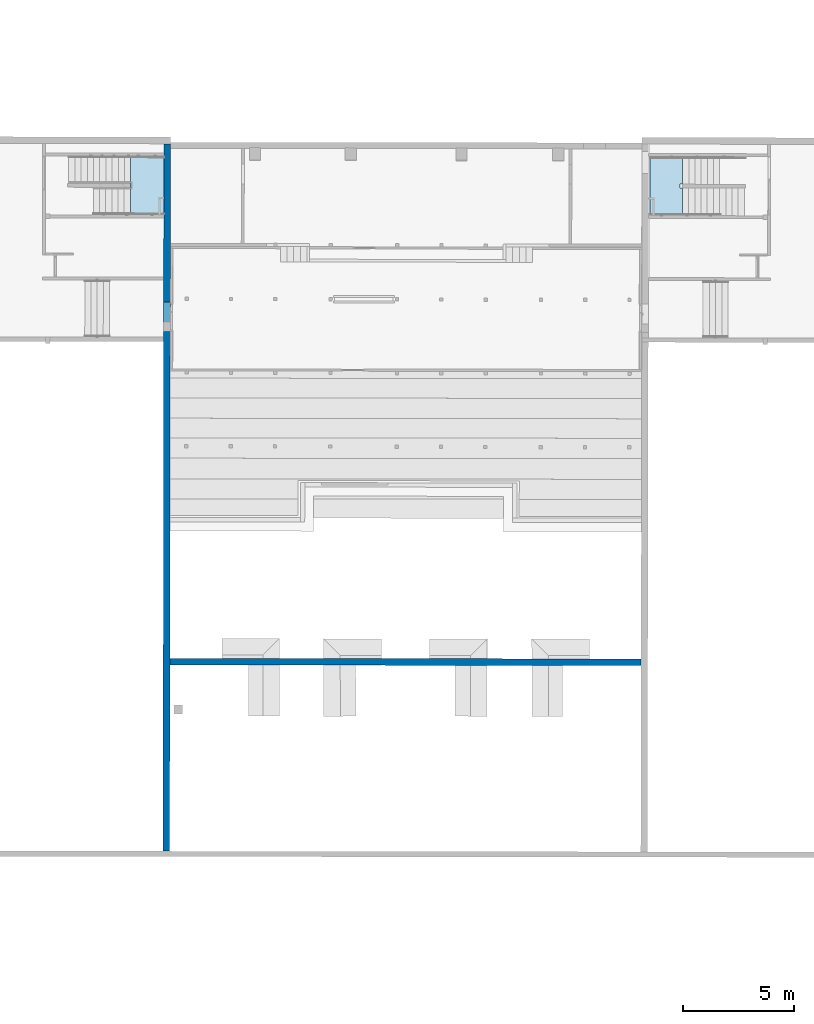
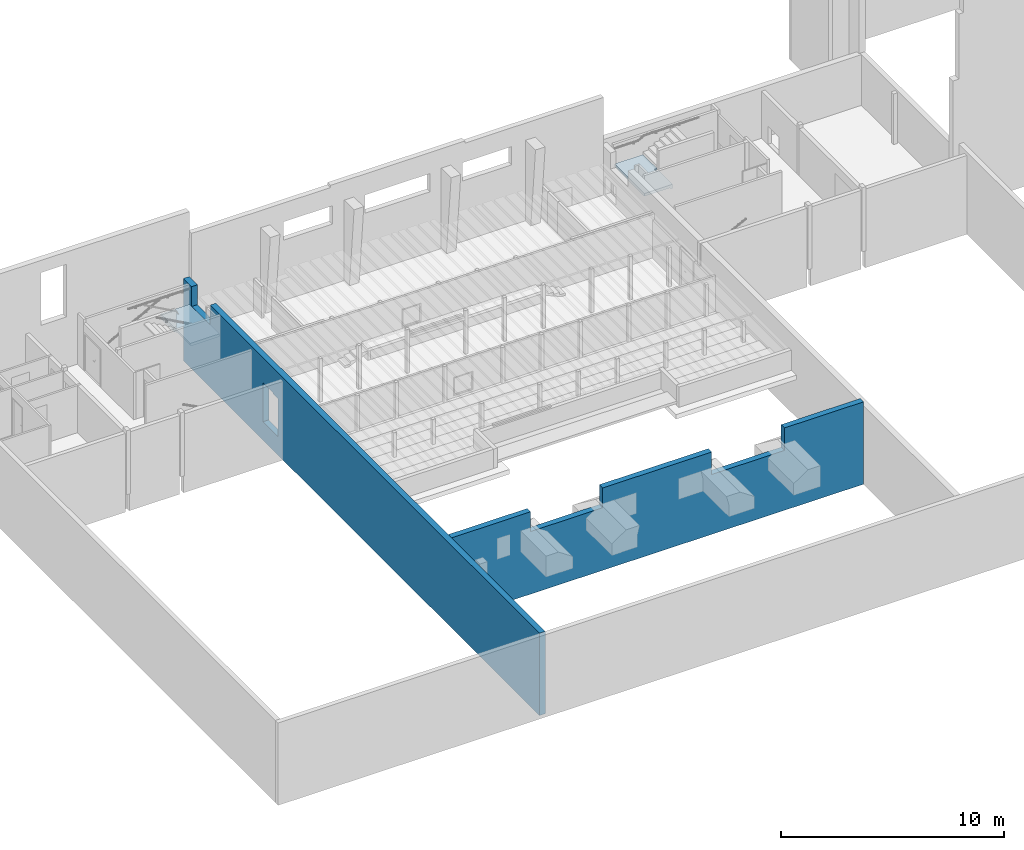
# One storey, part 12 of 24: 2 slabs, 2 walls, 2 elements without a shape of their own.
"""IFC2X3 building model written with IfcOpenShell, lengths in metres."""

from ifc_helpers import new_model, entity, si_unit, converted_unit, derived_unit, direction, frame, origin, place, context, subcontext, project, spatial, faceted_brep, material, layer, layer_set, type_object, element, aggregate, save


model = new_model("IFC2X3")

# Units and contexts
model_context = context("Model", 3, precision=1e-05, world=origin(), true_north=direction((6.123233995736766e-17, 1.0)))
body_context = subcontext(model_context, "Body", "Model", "MODEL_VIEW")
ifc_project = project(units=[si_unit("LENGTHUNIT", "METRE"), si_unit("AREAUNIT", "SQUARE_METRE"), converted_unit("PLANEANGLEUNIT", "DEGREE", entity("IfcPlaneAngleMeasure", 0.017453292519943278), si_unit("PLANEANGLEUNIT", "RADIAN"), dimensions=[0, 0, 0, 0, 0, 0, 0]), derived_unit("THERMALTRANSMITTANCEUNIT", [(si_unit("MASSUNIT", "GRAM", prefix="KILO"), 1), (si_unit("THERMODYNAMICTEMPERATUREUNIT", "KELVIN"), -1), (si_unit("TIMEUNIT", "SECOND"), -3)])], contexts=[model_context])

# Site, building, storey
site_placement = place(None, frame((1253.6752467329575, 2072.143113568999, 91.49999999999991), z_axis=(0.0, 0.0, 1.0), x_axis=(0.7237211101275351, 0.6900925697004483, 0.0)))
site = spatial("IfcSite", under=ifc_project, at=site_placement, Name="Surface", CompositionType="ELEMENT")
building_placement = place(site_placement, origin())
building = spatial("IfcBuilding", under=site, at=building_placement, CompositionType="ELEMENT")
storey_placement = place(building_placement, frame((0.0, 0.0, -7.049999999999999)))
storey = spatial("IfcBuildingStorey", under=building, at=storey_placement, Name="R-1", CompositionType="ELEMENT", Elevation=-7.049999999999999)

# Stair, slab
type_product = type_object("IfcTypeProduct", Name="Escalier coulé sur place:Monobloc")
stair_1_placement = place(storey_placement, origin())
stair_1 = element("IfcStair", 1, at=stair_1_placement, inside=storey, type_object=type_product, Name="Escalier coulé sur place:Escalier", ObjectType="Escalier coulé sur place:Monobloc", ShapeType="NOTDEFINED")
ifc_material_1 = material(Name="<Unnamed>")
slab_type = type_object("IfcSlabType", Name="Palier monobloc:150 mm d'épaisseur", PredefinedType="LANDING")
slab_1_placement = place(stair_1_placement, frame((172.5247683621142, 15.774347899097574, 0.0)))
slab_1 = element("IfcSlab", 2, at=slab_1_placement, type_object=slab_type, material=ifc_material_1, Name="Escalier coulé sur place:Escalier:3291574 Landing 1", ObjectType="Palier monobloc:150 mm d'épaisseur", PredefinedType="LANDING", context=body_context, shape_type="Brep", body=[
    faceted_brep([(1.8515397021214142, 2.968514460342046, 2.4227777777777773), (0.9878099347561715, 2.064926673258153, 2.4227777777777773), (0.9841955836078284, 2.068381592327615, 2.4227777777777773), (0.8667287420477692, 1.9454940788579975, 2.4227777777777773), (0.8661078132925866, 1.9460859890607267, 2.4227777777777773), (0.8624887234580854, 1.9495359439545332, 2.4227777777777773), (0.0, 1.0447634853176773, 2.4227777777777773), (0.0036190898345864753, 1.0413135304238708, 2.4227777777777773), (0.07732480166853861, 0.9710523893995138, 2.4227777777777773), (1.095983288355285, 0.0, 2.4227777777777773), (2.9394783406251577, 1.9285657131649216, 2.4227777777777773), (1.9767198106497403, 2.8488561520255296, 2.4227777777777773), (1.8515397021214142, 2.968514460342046, 2.2688888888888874), (1.8515397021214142, 2.968514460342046, 2.177602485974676), (0.9878099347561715, 2.0649266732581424, 2.177602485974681), (0.9878099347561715, 2.0649266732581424, 2.2688888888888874), (0.9878099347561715, 2.064926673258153, 2.272777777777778), (2.939478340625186, 1.9285657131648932, 2.272777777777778), (1.9767198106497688, 2.848856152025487, 2.2727777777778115), (1.095983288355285, 0.0, 2.272777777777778), (0.003619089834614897, 1.0413135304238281, 2.3287433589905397), (0.07732480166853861, 0.9710523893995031, 2.272777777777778), (0.8624887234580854, 1.9495359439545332, 2.331491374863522), (0.0, 1.0447634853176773, 2.331491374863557), (0.8667287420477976, 1.945494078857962, 2.328271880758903), (0.8661078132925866, 1.9460859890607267, 2.328743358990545), (0.9841955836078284, 2.0683815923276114, 2.272777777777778), (0.8667287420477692, 1.9454940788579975, 2.272777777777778), (0.9398135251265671, 1.8758248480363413, 2.272777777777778), (1.1129900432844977, 1.9452683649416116, 2.272777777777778)], [[[0, 1, 2, 3, 4, 5, 6, 7, 8, 9, 10, 11]], [[1, 0, 12, 13, 14, 15, 16]], [[13, 12, 0, 11, 10, 17, 18]], [[10, 9, 19, 17]], [[7, 20, 21, 19, 9, 8]], [[6, 5, 22, 23]], [[4, 3, 24, 25]], [[3, 2, 26, 27, 24]], [[28, 27, 26, 16, 29, 18, 17, 19, 21]], [[18, 29, 14, 13]], [[29, 16, 15, 14]], [[28, 21, 20, 23, 22, 25, 24]], [[2, 1, 16, 26]], [[5, 4, 25, 22]], [[7, 6, 23, 20]], [[27, 28, 24]]]),
])
aggregate(stair_1, [slab_1])

stair_2_placement = place(storey_placement, origin())
stair_2 = element("IfcStair", 3, at=stair_2_placement, inside=storey, type_object=type_product, Name="Escalier coulé sur place:Escalier", ObjectType="Escalier coulé sur place:Monobloc", ShapeType="NOTDEFINED")
slab_2_placement = place(stair_2_placement, frame((189.48237661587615, -0.40000993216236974, 0.0)))
slab_2 = element("IfcSlab", 4, at=slab_2_placement, type_object=slab_type, material=ifc_material_1, Name="Escalier coulé sur place:Escalier:4134805 Landing 1", ObjectType="Palier monobloc:150 mm d'épaisseur", PredefinedType="LANDING", context=body_context, shape_type="Brep", body=[
    faceted_brep([(1.055354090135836, 0.0, 2.4227777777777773), (1.9190838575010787, 0.9035877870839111, 2.4227777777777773), (1.835953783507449, 0.983050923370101, 2.4227777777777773), (1.9535992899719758, 1.1061253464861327, 2.4227777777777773), (1.9654787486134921, 1.0947386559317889, 2.4227777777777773), (2.038991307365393, 1.0242754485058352, 2.4227777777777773), (2.0426009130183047, 1.0208155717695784, 2.4227777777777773), (2.907570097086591, 1.923216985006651, 2.4227777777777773), (2.9039604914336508, 1.9266768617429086, 2.4227777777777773), (2.830447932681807, 1.9971400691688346, 2.4227777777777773), (1.8463814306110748, 2.940386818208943, 2.4227777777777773), (0.0, 1.0088015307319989, 2.4227777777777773), (0.9301739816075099, 0.11965830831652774, 2.4227777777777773), (1.9190838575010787, 0.9035877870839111, 2.2688888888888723), (1.9190838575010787, 0.9035877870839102, 2.1776024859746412), (1.793903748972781, 1.0232460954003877, 2.272777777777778), (1.835953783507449, 0.983050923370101, 2.272777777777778), (1.9535992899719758, 1.1061253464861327, 2.272777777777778), (2.0389913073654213, 1.0242754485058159, 2.3287433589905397), (2.0426009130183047, 1.0208155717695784, 2.3314913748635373), (2.907570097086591, 1.9232169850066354, 2.331491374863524), (2.9039604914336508, 1.9266768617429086, 2.3287433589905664), (2.830447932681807, 1.9971400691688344, 2.272777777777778), (1.8463814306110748, 2.940386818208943, 2.272777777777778), (0.0, 1.0088015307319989, 2.272777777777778), (1.055354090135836, 0.0, 2.2688888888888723), (1.055354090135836, 0.0, 2.1776024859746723), (1.9654787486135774, 1.0947386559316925, 2.2727777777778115), (0.9301739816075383, 0.11965830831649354, 2.27277777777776)], [[[0, 1, 2, 3, 4, 5, 6, 7, 8, 9, 10, 11, 12]], [[2, 1, 13, 14, 15, 16]], [[3, 2, 16, 17]], [[6, 5, 18, 19]], [[8, 7, 20, 21]], [[8, 21, 22, 23, 10, 9]], [[11, 10, 23, 24]], [[1, 0, 25, 26, 14, 13]], [[3, 17, 27, 18, 5, 4]], [[7, 6, 19, 20]], [[26, 25, 0, 12, 11, 24, 28]], [[15, 28, 24, 23, 22, 27, 17, 16]], [[28, 15, 14, 26]], [[27, 22, 21, 20, 19, 18]]]),
])
aggregate(stair_2, [slab_2])

# Walls
ifc_material_2 = material(Name="OMD_Béton blanc")
ifc_layer = layer(ifc_material_2, 0.29999999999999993)
ifc_layer_set = layer_set([ifc_layer], Name="Mur de base:MUR 30")
wall_type = type_object("IfcWallType", Name="Mur de base:MUR 30", PredefinedType="STANDARD", material=ifc_layer_set)
wall_1_placement = place(storey_placement, frame((175.94403817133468, 18.000875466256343, -1.0), z_axis=(0.0, 0.0, 1.0), x_axis=(-0.6909838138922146, -0.7228702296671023, 0.0)))
element("IfcWall", 5, at=wall_1_placement, inside=storey, type_object=wall_type, Name="Mur de base:MUR 30", ObjectType="Mur de base:MUR 30", context=body_context, shape_type="Brep", body=[
    faceted_brep([(0.0, -0.14999999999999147, 0.0), (8.73241582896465, -0.1499999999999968, 0.0), (8.93241582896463, -0.1499999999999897, 0.0), (31.942418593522, -0.14999999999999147, 0.0), (31.942418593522, -0.14999999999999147, 4.499999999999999), (23.532418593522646, -0.14999999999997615, 4.499999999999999), (3.3474185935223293, -0.15000000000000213, 4.499999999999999), (3.2174185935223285, -0.14999999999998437, 4.499999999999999), (2.3934950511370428, -0.14999999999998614, 4.499999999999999), (2.393495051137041, -0.14999999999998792, 3.42), (0.7389579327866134, -0.1499999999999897, 3.42), (0.7389579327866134, -0.1499999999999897, 4.499999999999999), (0.5474185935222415, -0.1499999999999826, 4.499999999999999), (0.4174185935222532, -0.14999999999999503, 4.499999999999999), (0.0, -0.14999999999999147, 4.499999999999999), (8.052415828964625, -0.14999999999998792, 3.0850000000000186), (8.477583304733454, -0.14999999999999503, 3.0850000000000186), (8.477583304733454, -0.14999999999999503, 1.0), (8.052415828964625, -0.14999999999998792, 1.0), (7.542583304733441, -0.14999999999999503, 1.0), (7.137415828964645, -0.14999999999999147, 1.0), (7.137415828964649, -0.14999999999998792, 3.1340000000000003), (8.052415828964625, -0.14999999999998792, 3.1340000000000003), (31.942418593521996, 0.150000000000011, 0.0), (23.532418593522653, 0.1499999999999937, 0.0), (23.232418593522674, 0.15000000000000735, 0.0), (0.0004117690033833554, 0.1500000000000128, 0.0), (0.0004117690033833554, 0.1500000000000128, 0.7999999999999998), (0.0004117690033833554, 0.1500000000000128, 4.499999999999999), (0.7389579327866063, 0.15000000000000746, 4.499999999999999), (0.738957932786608, 0.15000000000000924, 3.42), (2.3934950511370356, 0.150000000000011, 3.42), (2.3934950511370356, 0.150000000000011, 4.5), (23.232418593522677, 0.15000000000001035, 4.499999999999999), (23.532418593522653, 0.1499999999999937, 4.499999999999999), (31.94241859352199, 0.15000000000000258, 4.499999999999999), (8.477583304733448, 0.1500000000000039, 3.0850000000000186), (8.052415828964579, 0.1500000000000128, 3.0850000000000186), (8.052415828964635, 0.14999999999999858, 3.1340000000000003), (7.137415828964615, 0.15000000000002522, 3.1340000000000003), (7.137415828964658, 0.1499999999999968, 1.0), (7.542583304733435, 0.1500000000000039, 1.0), (8.05241582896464, 0.15000000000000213, 1.0), (8.477583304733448, 0.1500000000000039, 1.0)], [[[0, 1, 2, 3, 4, 5, 6, 7, 8, 9, 10, 11, 12, 13, 14], [15, 16, 17, 18, 19, 20, 21, 22]], [[23, 24, 25, 26, 27, 28, 29, 30, 31, 32, 33, 34, 35], [36, 37, 38, 39, 40, 41, 42, 43]], [[4, 35, 34, 33, 32, 8, 7, 6, 5]], [[3, 2, 1, 0, 26, 25, 24, 23]], [[4, 3, 23, 35]], [[10, 30, 29, 11]], [[31, 9, 8, 32]], [[30, 10, 9, 31]], [[36, 16, 15, 37]], [[16, 36, 43, 17]], [[22, 38, 37, 15]], [[17, 43, 42, 41, 40, 20, 19, 18]], [[20, 40, 39, 21]], [[38, 22, 21, 39]], [[0, 14, 28, 27, 26]], [[14, 13, 12, 11, 29, 28]]]),
])
wall_2_placement = place(storey_placement, frame((159.89559592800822, 0.994773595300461, -1.0), z_axis=(0.0, 0.0, 1.0), x_axis=(0.7228702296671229, -0.6909838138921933, 0.0)))
element("IfcWall", 6, at=wall_2_placement, inside=storey, type_object=wall_type, Name="Mur de base:MUR 30", ObjectType="Mur de base:MUR 30", context=body_context, shape_type="Brep", body=[
    faceted_brep([(0.0, -0.15000000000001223, 0.0), (21.274892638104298, -0.1499999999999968, 0.0), (21.274892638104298, -0.1499999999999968, 4.499999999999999), (17.199169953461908, -0.14999999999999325, 4.499999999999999), (17.19916995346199, -0.15000000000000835, 3.2699999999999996), (13.434122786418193, -0.14999999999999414, 3.2699999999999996), (13.43412278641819, -0.1499999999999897, 4.499999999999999), (7.807121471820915, -0.1500000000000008, 4.499999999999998), (7.807121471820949, -0.1500000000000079, 3.42), (4.079059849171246, -0.15000000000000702, 3.42), (4.079059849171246, -0.15000000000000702, 4.499999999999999), (0.0, -0.15000000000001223, 4.499999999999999), (21.27503855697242, 0.14999999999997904, 0.0), (0.0, 0.1499999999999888, 0.0), (0.0, 0.1499999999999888, 4.499999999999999), (4.07905984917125, 0.14999999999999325, 4.499999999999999), (4.079059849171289, 0.14999999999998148, 3.42), (7.807121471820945, 0.15000000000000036, 3.42), (7.807121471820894, 0.1499999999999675, 4.499999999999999), (13.434122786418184, 0.14999999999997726, 4.499999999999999), (13.434122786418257, 0.14999999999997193, 3.2699999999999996), (17.199169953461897, 0.14999999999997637, 3.2700000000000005), (17.1991699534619, 0.1499999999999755, 4.499999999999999), (21.27503855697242, 0.14999999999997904, 4.499999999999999)], [[[0, 1, 2, 3, 4, 5, 6, 7, 8, 9, 10, 11]], [[12, 13, 14, 15, 16, 17, 18, 19, 20, 21, 22, 23]], [[14, 11, 10, 15]], [[1, 0, 13, 12]], [[0, 11, 14, 13]], [[21, 4, 3, 22]], [[5, 20, 19, 6]], [[4, 21, 20, 5]], [[17, 8, 7, 18]], [[9, 16, 15, 10]], [[8, 17, 16, 9]], [[2, 1, 12, 23]], [[6, 19, 18, 7]], [[3, 2, 23, 22]]]),
])

save(model, "model.ifc")
